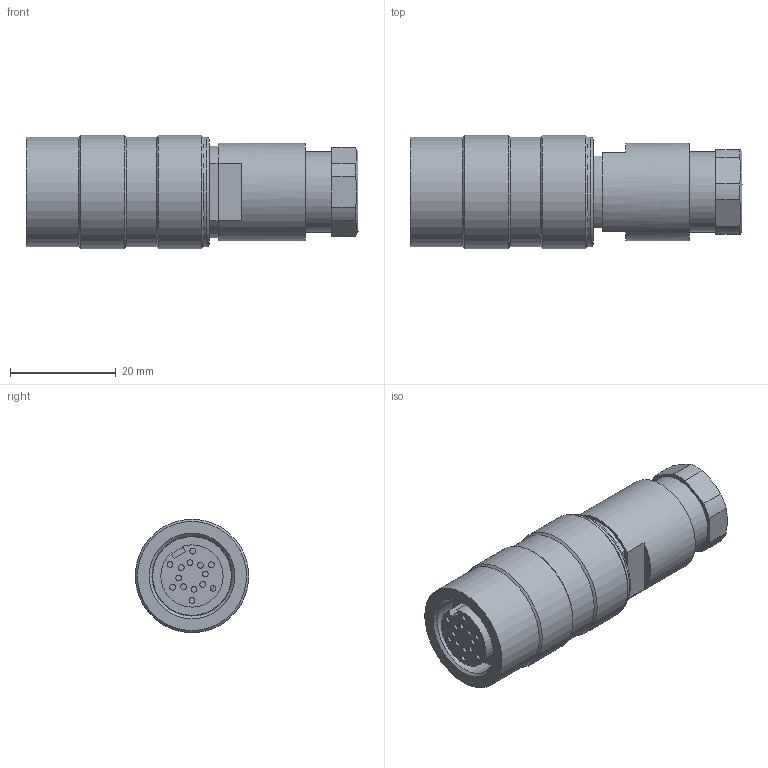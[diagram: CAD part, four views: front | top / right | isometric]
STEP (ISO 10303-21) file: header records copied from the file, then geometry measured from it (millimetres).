
FILE_DESCRIPTION(/* description */ (''),/* implementation_level */ '2;1');
FILE_NAME(/* name */ '09_0452_70_14_001_00.stp',/* time_stamp */ '2017-01-25T14:24:05+01:00',/* author */ (''),/* organization */ (''),/* preprocessor_version */ 'ST-DEVELOPER v14',/* originating_system */ 'SIEMENS PLM Software NX 8.0',/* authorisation */ '');
FILE_SCHEMA (('AUTOMOTIVE_DESIGN { 1 0 10303 214 3 1 1 1 }'));
Length unit declared in the file: millimetre
Products named in the file (1): cerl0620A27Dbrvd
Bounding box: 62.9 x 21.5 x 21.5 mm (x, y, z)
Volume: 17573.8 mm3; surface area: 5867.8 mm2
Topology: 1 solids, 1 shells, 113 faces, 230 edges, 155 vertices
Faces by surface type: plane 56, cylinder 49, cone 6, torus 2
Full cylindrical faces by diameter (mm): 1.1 x14, 1.6 x14, 9.5 x1, 14.9 x1, 15.188 x1, 15.2 x1, 18.5 x1, 20.7 x3, 21.5 x2
Entity records: 2651 total; most frequent: DIRECTION 497, CARTESIAN_POINT 433, ORIENTED_EDGE 330, AXIS2_PLACEMENT_3D 224, EDGE_LOOP 195, EDGE_CURVE 165, FACE_BOUND 151, VERTEX_POINT 136
